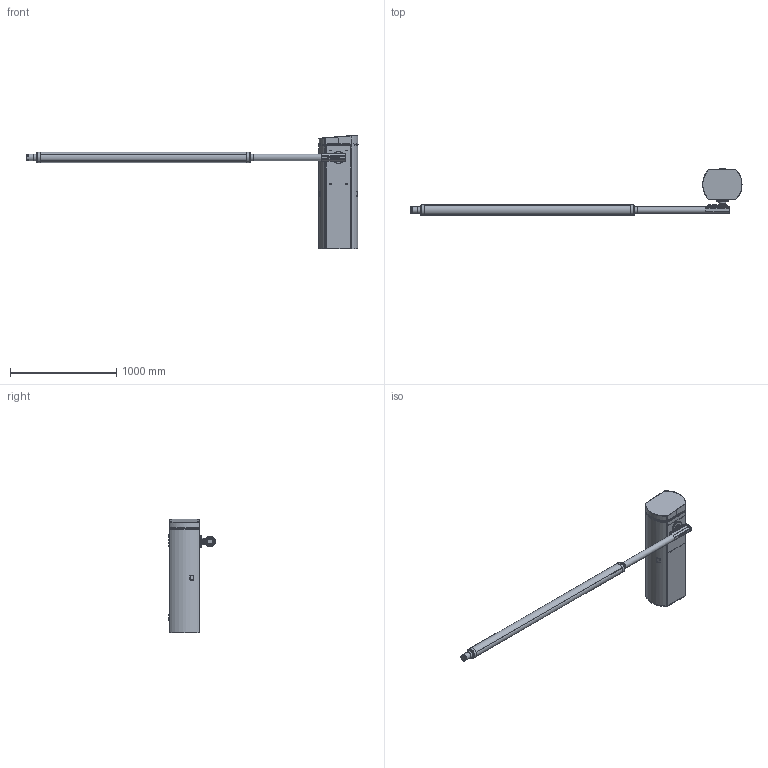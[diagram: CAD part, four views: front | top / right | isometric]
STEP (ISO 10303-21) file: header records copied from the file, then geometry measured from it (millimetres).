
FILE_DESCRIPTION(/* description */ ('Unknown'),/* implementation_level */ '2;1');
FILE_NAME(/* name */ 'GF03.1 Стойка шлагбаума со стрелой_020626',/* time_stamp */ '2026-06-02T15:01:33+03:00',/* author */ ('Unknown'),/* organization */ ('Unknown'),/* preprocessor_version */ 'ST-DEVELOPER v18.102',/* originating_system */ 'Solid Edge',/* authorisation */ 'Unknown');
FILE_SCHEMA (('CONFIG_CONTROL_DESIGN'));
Length unit declared in the file: millimetre
Products named in the file (3): GF03.1 Ñòîéêà øëàãáàóìà ñî ñòðåëîé_020626; GF03.1 栺鍣罻 齴飹摳鶂趌020626; GF13.185.00 Ñòðåëà ñ áóôåðîì_020626
Assembly tree (2 placements, depth 2):
  GF03.1 Ñòîéêà øëàãáàóìà ñî ñòðåëîé_020626
    GF03.1 栺鍣罻 齴飹摳鶂趌020626
    GF13.185.00 Ñòðåëà ñ áóôåðîì_020626
Bounding box: 3125 x 439.5 x 1071.92 mm (x, y, z)
Volume: 13982003.9 mm3; surface area: 8030447.6 mm2
Topology: 77 solids, 77 shells, 2479 faces, 6619 edges, 4323 vertices
Faces by surface type: plane 1623, cylinder 595, cone 143, bspline 65, torus 27, sphere 26
Full cylindrical faces by diameter (mm): 3.242 x3, 3.95 x12, 4 x2, 4.134 x10, 4.5 x6, 4.773 x6, 4.917 x13, 5 x30, 5.5 x4, 6 x31, 6.4 x6, 7 x5, 7.2 x4, 7.5 x4, 8 x10, 8.88 x6, 9.5 x2, 9.9 x4, 10 x16, 12 x6, 12.4 x1, 12.6 x1, 13 x4, 13.5 x4, 14.5 x6, 15.4 x1, 15.6 x1, 18 x4, 18.7 x1, 22 x1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
Entity records: 81041 total; most frequent: CARTESIAN_POINT 16686, ORIENTED_EDGE 12210, DIRECTION 12077, EDGE_CURVE 6105, VERTEX_POINT 4177, LINE 4169, VECTOR 4169, AXIS2_PLACEMENT_3D 3954
